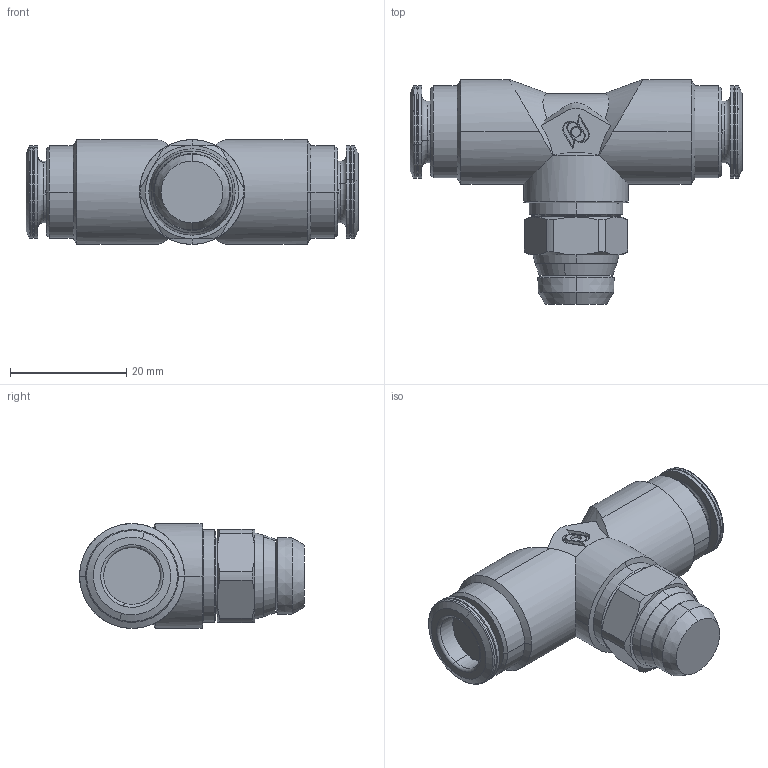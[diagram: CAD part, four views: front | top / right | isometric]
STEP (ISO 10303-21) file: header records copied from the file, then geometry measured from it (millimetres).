
FILE_DESCRIPTION (( 'STEP AP214' ), '1' );
FILE_NAME ('84211H0007.STEP', '2019-12-11T10:45:47', ( '' ), ( '' ), 'SwSTEP 2.0', 'SolidWorks 2016', '' );
FILE_SCHEMA (( 'AUTOMOTIVE_DESIGN' ));
Length unit declared in the file: millimetre
Products named in the file (1): 84211H0007
Bounding box: 57 x 38.6 x 18 mm (x, y, z)
Volume: 15978.2 mm3; surface area: 5418.4 mm2
Topology: 1 solids, 3 shells, 192 faces, 499 edges, 320 vertices
Faces by surface type: plane 71, cone 62, cylinder 41, torus 14, bspline 4
Entity records: 9425 total; most frequent: CARTESIAN_POINT 2632, ORIENTED_EDGE 998, DIRECTION 980, EDGE_CURVE 499, AXIS2_PLACEMENT_3D 393, VERTEX_POINT 320, EDGE_LOOP 215, CIRCLE 204
